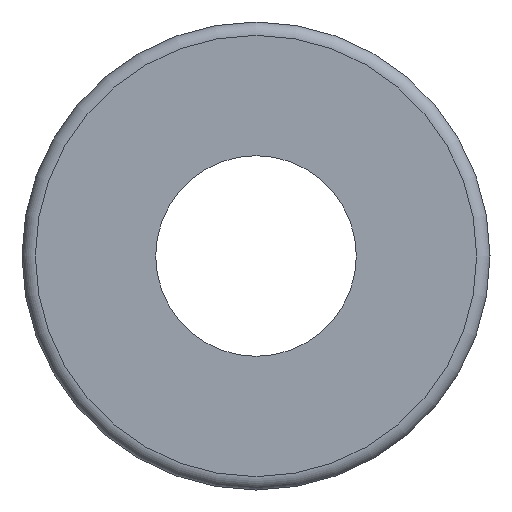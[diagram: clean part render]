
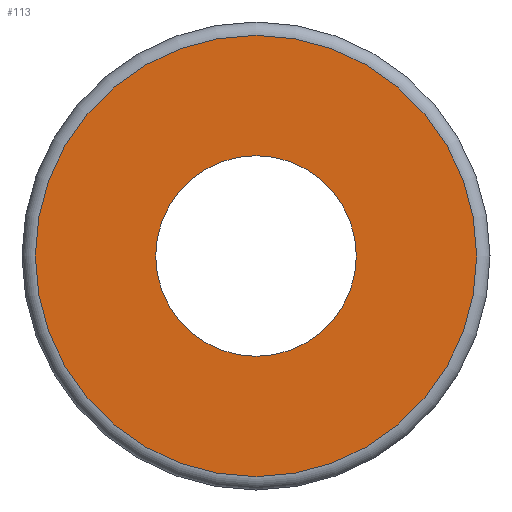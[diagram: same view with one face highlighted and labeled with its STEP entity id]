
A CAD part, left-side view. The second image highlights one B-rep face of the part: STEP entity #113.
In plain terms, the highlighted planar face has unit normal (-1, 0, 0).
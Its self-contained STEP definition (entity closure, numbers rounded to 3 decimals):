
#21 = EDGE_CURVE('',#22,#22,#24,.T.);
#22 = VERTEX_POINT('',#23);
#23 = CARTESIAN_POINT('',(0.,0.,-3.3));
#24 = SURFACE_CURVE('',#25,(#30,#42),.PCURVE_S1.);
#25 = CIRCLE('',#26,3.3);
#26 = AXIS2_PLACEMENT_3D('',#27,#28,#29);
#27 = CARTESIAN_POINT('',(0.,0.,0.));
#28 = DIRECTION('',(1.,0.,-0.));
#29 = DIRECTION('',(-0.,0.,-1.));
#30 = PCURVE('',#31,#36);
#31 = TOROIDAL_SURFACE('',#32,3.3,0.2);
#32 = AXIS2_PLACEMENT_3D('',#33,#34,#35);
#33 = CARTESIAN_POINT('',(0.2,0.,0.));
#34 = DIRECTION('',(1.,0.,-0.));
#35 = DIRECTION('',(-0.,0.,-1.));
#36 = DEFINITIONAL_REPRESENTATION('',(#37),#41);
#37 = LINE('',#38,#39);
#38 = CARTESIAN_POINT('',(0.,4.712));
#39 = VECTOR('',#40,1.);
#40 = DIRECTION('',(1.,0.));
#41 = ( GEOMETRIC_REPRESENTATION_CONTEXT(2) 
PARAMETRIC_REPRESENTATION_CONTEXT() REPRESENTATION_CONTEXT('2D SPACE',''
  ) );
#42 = PCURVE('',#43,#48);
#43 = PLANE('',#44);
#44 = AXIS2_PLACEMENT_3D('',#45,#46,#47);
#45 = CARTESIAN_POINT('',(0.,3.3,0.));
#46 = DIRECTION('',(-1.,0.,0.));
#47 = DIRECTION('',(0.,0.,1.));
#48 = DEFINITIONAL_REPRESENTATION('',(#49),#57);
#49 = ( BOUNDED_CURVE() B_SPLINE_CURVE(2,(#50,#51,#52,#53,#54,#55,#56),
.UNSPECIFIED.,.T.,.F.) B_SPLINE_CURVE_WITH_KNOTS((1,2,2,2,2,1),(
    -2.094,0.,2.094,4.189,6.283,
8.378),.UNSPECIFIED.) CURVE() GEOMETRIC_REPRESENTATION_ITEM() 
RATIONAL_B_SPLINE_CURVE((1.,0.5,1.,0.5,1.,0.5,1.)) REPRESENTATION_ITEM(
  '') );
#50 = CARTESIAN_POINT('',(-3.3,-3.3));
#51 = CARTESIAN_POINT('',(-3.3,2.416));
#52 = CARTESIAN_POINT('',(1.65,-0.442));
#53 = CARTESIAN_POINT('',(6.6,-3.3));
#54 = CARTESIAN_POINT('',(1.65,-6.158));
#55 = CARTESIAN_POINT('',(-3.3,-9.016));
#56 = CARTESIAN_POINT('',(-3.3,-3.3));
#57 = ( GEOMETRIC_REPRESENTATION_CONTEXT(2) 
PARAMETRIC_REPRESENTATION_CONTEXT() REPRESENTATION_CONTEXT('2D SPACE',''
  ) );
#113 = ADVANCED_FACE('',(#114,#149),#43,.T.);
#114 = FACE_BOUND('',#115,.T.);
#115 = EDGE_LOOP('',(#116));
#116 = ORIENTED_EDGE('',*,*,#117,.T.);
#117 = EDGE_CURVE('',#118,#118,#120,.T.);
#118 = VERTEX_POINT('',#119);
#119 = CARTESIAN_POINT('',(0.,0.,-1.5));
#120 = SURFACE_CURVE('',#121,(#126,#137),.PCURVE_S1.);
#121 = CIRCLE('',#122,1.5);
#122 = AXIS2_PLACEMENT_3D('',#123,#124,#125);
#123 = CARTESIAN_POINT('',(0.,0.,0.));
#124 = DIRECTION('',(1.,0.,-0.));
#125 = DIRECTION('',(-0.,0.,-1.));
#126 = PCURVE('',#43,#127);
#127 = DEFINITIONAL_REPRESENTATION('',(#128),#136);
#128 = ( BOUNDED_CURVE() B_SPLINE_CURVE(2,(#129,#130,#131,#132,#133,#134
,#135),.UNSPECIFIED.,.T.,.F.) B_SPLINE_CURVE_WITH_KNOTS((1,2,2,2,2,1),(
    -2.094,0.,2.094,4.189,6.283,
8.378),.UNSPECIFIED.) CURVE() GEOMETRIC_REPRESENTATION_ITEM() 
RATIONAL_B_SPLINE_CURVE((1.,0.5,1.,0.5,1.,0.5,1.)) REPRESENTATION_ITEM(
  '') );
#129 = CARTESIAN_POINT('',(-1.5,-3.3));
#130 = CARTESIAN_POINT('',(-1.5,-0.702));
#131 = CARTESIAN_POINT('',(0.75,-2.001));
#132 = CARTESIAN_POINT('',(3.,-3.3));
#133 = CARTESIAN_POINT('',(0.75,-4.599));
#134 = CARTESIAN_POINT('',(-1.5,-5.898));
#135 = CARTESIAN_POINT('',(-1.5,-3.3));
#136 = ( GEOMETRIC_REPRESENTATION_CONTEXT(2) 
PARAMETRIC_REPRESENTATION_CONTEXT() REPRESENTATION_CONTEXT('2D SPACE',''
  ) );
#137 = PCURVE('',#138,#143);
#138 = CYLINDRICAL_SURFACE('',#139,1.5);
#139 = AXIS2_PLACEMENT_3D('',#140,#141,#142);
#140 = CARTESIAN_POINT('',(19.,0.,0.));
#141 = DIRECTION('',(-1.,-0.,0.));
#142 = DIRECTION('',(-0.,0.,-1.));
#143 = DEFINITIONAL_REPRESENTATION('',(#144),#148);
#144 = LINE('',#145,#146);
#145 = CARTESIAN_POINT('',(6.283,19.));
#146 = VECTOR('',#147,1.);
#147 = DIRECTION('',(-1.,0.));
#148 = ( GEOMETRIC_REPRESENTATION_CONTEXT(2) 
PARAMETRIC_REPRESENTATION_CONTEXT() REPRESENTATION_CONTEXT('2D SPACE',''
  ) );
#149 = FACE_BOUND('',#150,.T.);
#150 = EDGE_LOOP('',(#151));
#151 = ORIENTED_EDGE('',*,*,#21,.F.);
